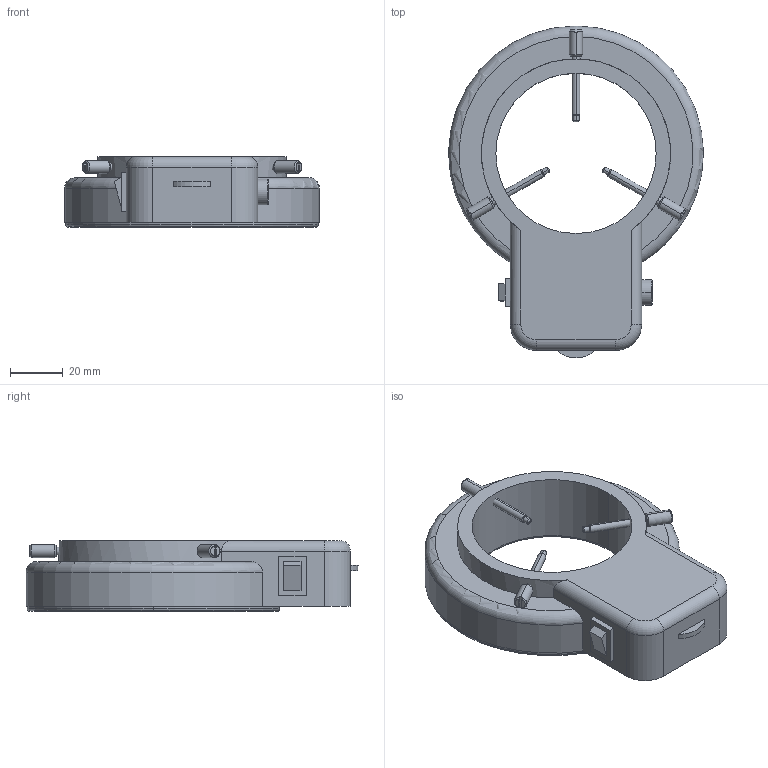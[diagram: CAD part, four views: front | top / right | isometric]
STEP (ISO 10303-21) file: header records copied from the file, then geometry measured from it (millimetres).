
FILE_DESCRIPTION((''),'2;1');
FILE_NAME('LED-56S00_ASM','2024-03-13T10:50:18',('fangzhiyong'),(''),'CREO PARAMETRIC BY PTC INC, 2020044','CREO PARAMETRIC BY PTC INC, 2020044','');
FILE_SCHEMA(('CONFIG_CONTROL_DESIGN'));
Length unit declared in the file: millimetre
Products named in the file (6): ADMICE72HQWJ_1; ADMICE72HQWJ_2; ADMICE72HQWJ_3; ADMICE72HQWJ_4; ADMICE72HQWJ_ASM; LED-56S00_ASM
Assembly tree (5 placements, depth 3):
  LED-56S00_ASM
    ADMICE72HQWJ_ASM
      ADMICE72HQWJ_1
      ADMICE72HQWJ_2
      ADMICE72HQWJ_3
      ADMICE72HQWJ_4
Bounding box: 96.99 x 126.36 x 27 mm (x, y, z)
Volume: 134320.7 mm3; surface area: 26906.2 mm2
Topology: 4 solids, 4 shells, 114 faces, 264 edges, 162 vertices
Faces by surface type: plane 39, cylinder 36, cone 20, torus 11, sphere 6, bspline 2
Entity records: 3676 total; most frequent: CARTESIAN_POINT 886, DIRECTION 624, ORIENTED_EDGE 516, EDGE_CURVE 258, AXIS2_PLACEMENT_3D 257, VERTEX_POINT 162, CIRCLE 130, EDGE_LOOP 126
